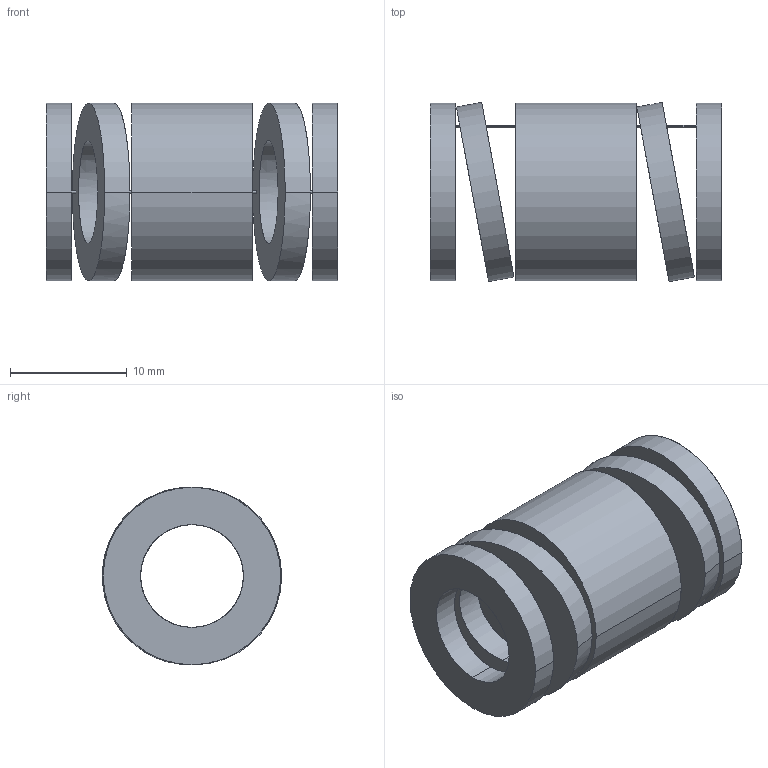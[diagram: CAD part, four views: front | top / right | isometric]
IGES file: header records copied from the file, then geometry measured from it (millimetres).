
Start section: START RECORD GO HERE.
Global section: file name: 392-B16-025.igs; native system: DASSAULT SYSTEMES CATIA V5 R20 - www.3ds.com; preprocessor: CATIA Version 5 Release 20 ; author: Utente; organization: NB04-ASUS; date: 20210812.160957; units: millimetre
Bounding box: 25 x 15.35 x 15.2 mm (x, y, z)
Surface area: 2647.8 mm2 (no closed solid volume)
Topology: 0 solids, 0 shells, 38 faces, 184 edges, 184 vertices
Faces by surface type: revolution 28, plane 10
